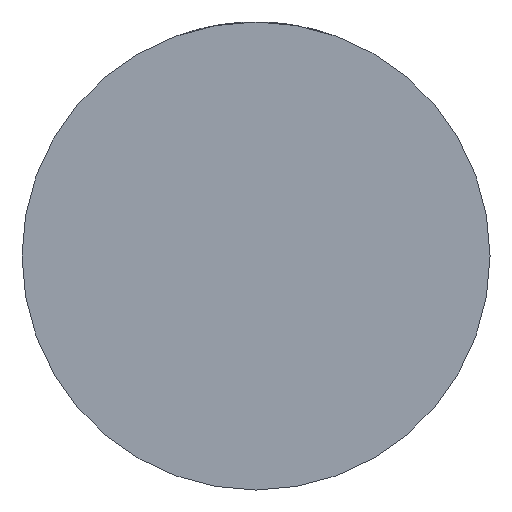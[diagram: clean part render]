
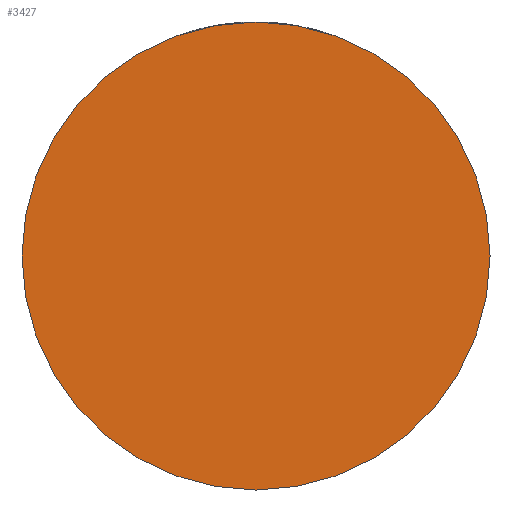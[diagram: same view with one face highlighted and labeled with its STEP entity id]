
A CAD part, front view. The second image highlights one B-rep face of the part: STEP entity #3427.
In plain terms, the highlighted planar face has unit normal (0, -1, 0).
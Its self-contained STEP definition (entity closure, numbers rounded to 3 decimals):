
#9 = VERTEX_POINT ( 'NONE', #1830 ) ;
#109 = AXIS2_PLACEMENT_3D ( 'NONE', #2675, #2328, #1061 ) ;
#505 = ORIENTED_EDGE ( 'NONE', *, *, #3358, .T. ) ;
#851 = AXIS2_PLACEMENT_3D ( 'NONE', #3150, #3805, #2826 ) ;
#1061 = DIRECTION ( 'NONE',  ( 1., 0., 0. ) ) ;
#1500 = DIRECTION ( 'NONE',  ( 0., -1., 0. ) ) ;
#1765 = PLANE ( 'NONE',  #851 ) ;
#1826 = CIRCLE ( 'NONE', #4161, 32.5 ) ;
#1830 = CARTESIAN_POINT ( 'NONE',  ( 32.5, -26., 0. ) ) ;
#1902 = CARTESIAN_POINT ( 'NONE',  ( -32.5, -26., 0. ) ) ;
#2328 = DIRECTION ( 'NONE',  ( 0., -1., 0. ) ) ;
#2537 = CIRCLE ( 'NONE', #109, 32.5 ) ;
#2675 = CARTESIAN_POINT ( 'NONE',  ( 0., -26., 0. ) ) ;
#2767 = CARTESIAN_POINT ( 'NONE',  ( 0., -26., 0. ) ) ;
#2826 = DIRECTION ( 'NONE',  ( 1., 0., 0. ) ) ;
#3150 = CARTESIAN_POINT ( 'NONE',  ( 0., -26., 0. ) ) ;
#3358 = EDGE_CURVE ( 'NONE', #3944, #9, #1826, .T. ) ;
#3427 = ADVANCED_FACE ( 'NONE', ( #3828 ), #1765, .T. ) ;
#3428 = DIRECTION ( 'NONE',  ( 1., 0., 0. ) ) ;
#3663 = EDGE_CURVE ( 'NONE', #9, #3944, #2537, .T. ) ;
#3805 = DIRECTION ( 'NONE',  ( 0., -1., 0. ) ) ;
#3828 = FACE_OUTER_BOUND ( 'NONE', #3969, .T. ) ;
#3944 = VERTEX_POINT ( 'NONE', #1902 ) ;
#3969 = EDGE_LOOP ( 'NONE', ( #505, #4191 ) ) ;
#4161 = AXIS2_PLACEMENT_3D ( 'NONE', #2767, #1500, #3428 ) ;
#4191 = ORIENTED_EDGE ( 'NONE', *, *, #3663, .T. ) ;
